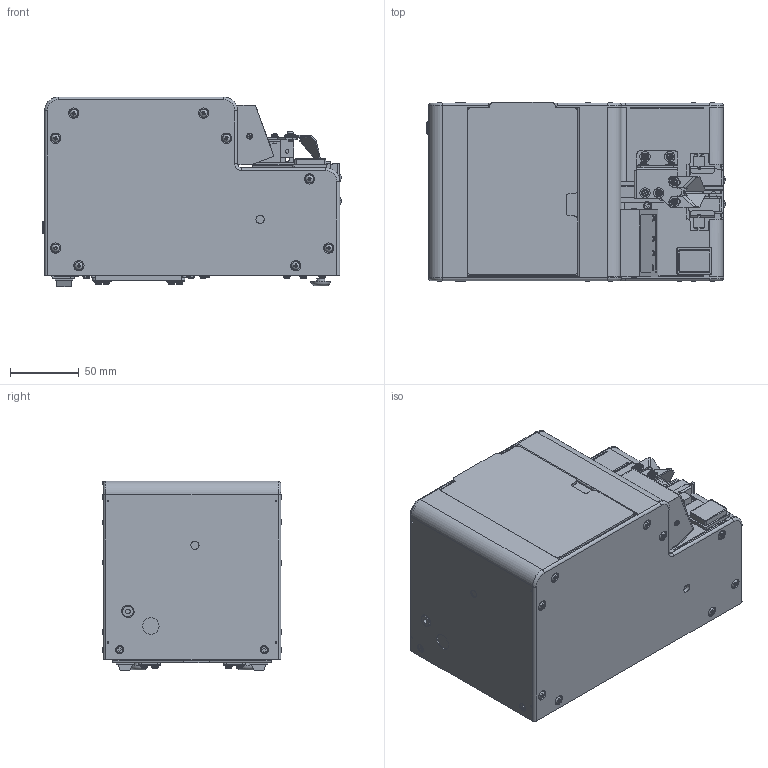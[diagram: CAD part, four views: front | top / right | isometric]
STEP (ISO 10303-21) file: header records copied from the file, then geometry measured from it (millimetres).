
FILE_DESCRIPTION(/* description */ (''),/* implementation_level */ '2;1');
FILE_NAME(/* name */ '',/* time_stamp */ '2024-09-09T10:45:55+09:00',/* author */ ('oikawa'),/* organization */ (''),/* preprocessor_version */ 'ST-DEVELOPER v20',/* originating_system */ 'Autodesk Inventor 2025',/* authorisation */ '');
FILE_SCHEMA (('CONFIG_CONTROL_DESIGN'));
Products named in the file (1): TOKX0461a_供給機ﾕﾆｯﾄ(NJC)_簡略化_
2
Bounding box: 217.31 x 130.52 x 138.3 mm (x, y, z)
Volume: 2996069.9 mm3; surface area: 283730 mm2
Topology: 4 solids, 14 shells, 3006 faces, 7790 edges, 5122 vertices
Faces by surface type: plane 2045, cylinder 654, bspline 174, torus 59, sphere 56, cone 18
Full cylindrical faces by diameter (mm): 0.3 x1, 0.5 x8, 1 x18, 1.5 x4, 1.6 x4, 1.7 x6, 1.8 x2, 2 x8, 2.113 x2, 2.5 x2, 2.6 x53, 2.7 x4, 2.8 x2, 2.9 x11, 3 x19, 3.1 x5, 3.2 x7, 3.5 x1, 3.8 x2, 4 x11, 4.5 x36, 5.2 x29, 5.9 x21, 6 x8, 6.1 x1, 6.6 x1, 7 x1, 7.5 x46, 8 x1, 9 x3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
Entity records: 97555 total; most frequent: CARTESIAN_POINT 19241, ORIENTED_EDGE 15582, DIRECTION 15353, EDGE_CURVE 7791, LINE 5189, VECTOR 5189, VERTEX_POINT 5122, AXIS2_PLACEMENT_3D 5082
